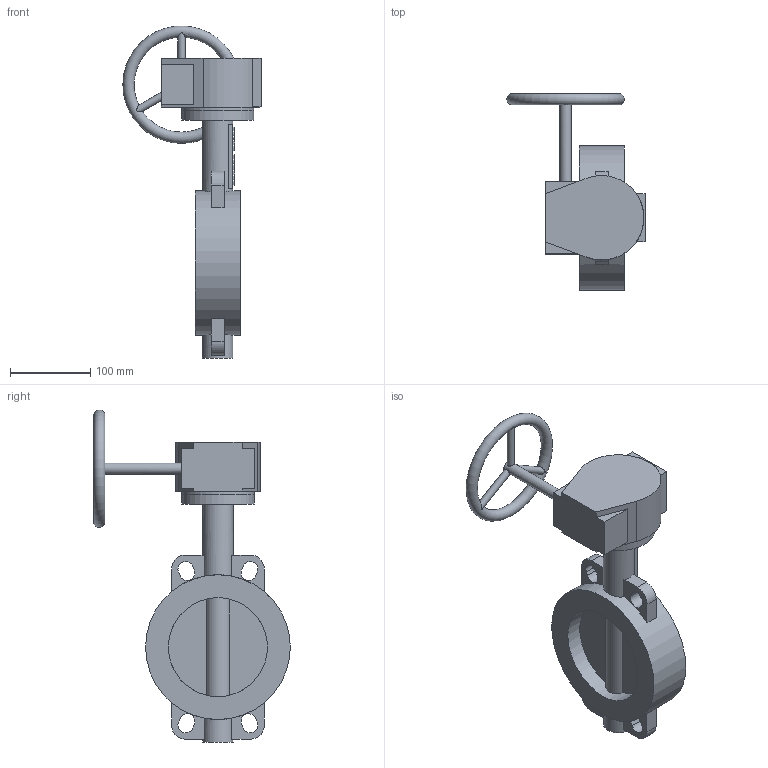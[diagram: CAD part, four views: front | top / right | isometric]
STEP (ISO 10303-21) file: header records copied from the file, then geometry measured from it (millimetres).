
FILE_DESCRIPTION(('STEP AP203'), '1');
FILE_NAME('青蜮铕 017W.ZS DN125 PN10_16 疱潴牝铕', '', ('UNSPECIFIED'), ('UNSPECIFIED'), 'ASCON STEP Converter 1.6', 'ASCON Math Kernel', '');
FILE_SCHEMA(('CONFIG_CONTROL_DESIGN'));
Length unit declared in the file: millimetre
Bounding box: 171.99 x 244.5 x 412.97 mm (x, y, z)
Volume: 775614.2 mm3; surface area: 225092.4 mm2
Topology: 1 solids, 4 shells, 681 faces, 1990 edges, 1282 vertices
Faces by surface type: cylinder 473, plane 207, torus 1
Full cylindrical faces by diameter (mm): 6.7 x4, 9 x3, 10 x4, 14 x1, 18.9 x1, 38 x2, 55 x1, 90 x2, 123.3 x2, 180 x1
Entity records: 29941 total; most frequent: CARTESIAN_POINT 5561, DIRECTION 4309, ORIENTED_EDGE 3871, EDGE_CURVE 1967, AXIS2_PLACEMENT_3D 1681, VERTEX_POINT 1281, CIRCLE 1000, LINE 947
